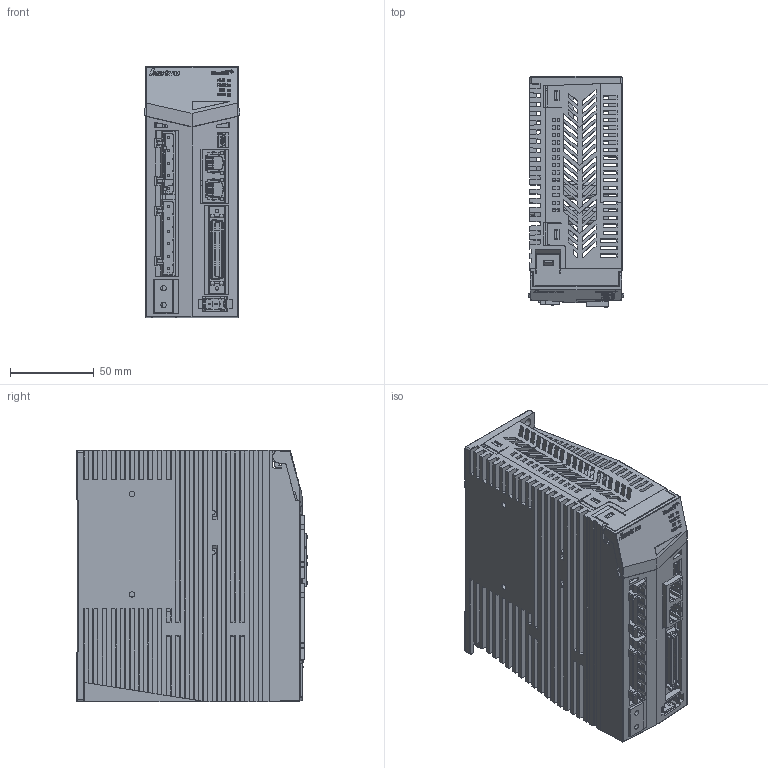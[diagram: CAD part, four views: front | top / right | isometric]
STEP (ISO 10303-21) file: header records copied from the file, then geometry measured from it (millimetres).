
FILE_DESCRIPTION (( 'STEP AP203' ), '1' );
FILE_NAME ('3Dͼֽ B1E V1.0.STEP', '2022-10-12T07:46:48', ( 'Microsoft' ), ( 'Microsoft' ), 'SwSTEP 2.0', 'SolidWorks 2020', '' );
FILE_SCHEMA (( 'CONFIG_CONTROL_DESIGN' ));
Length unit declared in the file: millimetre
Products named in the file (1): 3Dͼֽ B1E V1.0
Bounding box: 57 x 137.97 x 150.3 mm (x, y, z)
Surface area: 164016.9 mm2 (no closed solid volume)
Topology: 0 solids, 91 shells, 2529 faces, 12184 edges, 9384 vertices
Faces by surface type: plane 2224, cylinder 211, bspline 89, torus 3, cone 2
Entity records: 124217 total; most frequent: CARTESIAN_POINT 32099, ORIENTED_EDGE 17585, DIRECTION 16455, EDGE_CURVE 12182, VECTOR 10375, LINE 10375, VERTEX_POINT 9384, AXIS2_PLACEMENT_3D 3040
